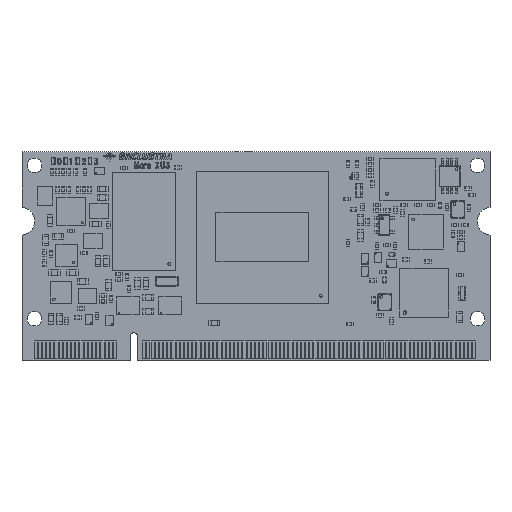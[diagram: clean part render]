
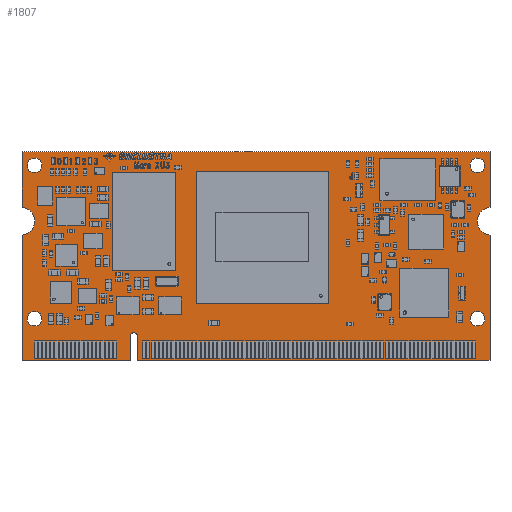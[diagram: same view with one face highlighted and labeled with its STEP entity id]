
A CAD part, top view. The second image highlights one B-rep face of the part: STEP entity #1807.
In plain terms, the highlighted planar face has unit normal (0, 0, 1).
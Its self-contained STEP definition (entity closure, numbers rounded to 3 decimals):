
#1272 = VERTEX_POINT('',#1273);
#1273 = CARTESIAN_POINT('',(0.,0.,1.02));
#1279 = EDGE_CURVE('',#1272,#1280,#1282,.T.);
#1280 = VERTEX_POINT('',#1281);
#1281 = CARTESIAN_POINT('',(15.55,0.,1.02));
#1282 = LINE('',#1283,#1284);
#1283 = CARTESIAN_POINT('',(0.,0.,1.02));
#1284 = VECTOR('',#1285,1.);
#1285 = DIRECTION('',(1.,0.,0.));
#1310 = EDGE_CURVE('',#1280,#1311,#1313,.T.);
#1311 = VERTEX_POINT('',#1312);
#1312 = CARTESIAN_POINT('',(15.55,3.5,1.02));
#1313 = LINE('',#1314,#1315);
#1314 = CARTESIAN_POINT('',(15.55,0.,1.02));
#1315 = VECTOR('',#1316,1.);
#1316 = DIRECTION('',(0.,1.,0.));
#1341 = EDGE_CURVE('',#1311,#1342,#1344,.T.);
#1342 = VERTEX_POINT('',#1343);
#1343 = CARTESIAN_POINT('',(16.55,3.5,1.02));
#1344 = CIRCLE('',#1345,0.5);
#1345 = AXIS2_PLACEMENT_3D('',#1346,#1347,#1348);
#1346 = CARTESIAN_POINT('',(16.05,3.5,1.02));
#1347 = DIRECTION('',(0.,0.,-1.));
#1348 = DIRECTION('',(-1.,0.,0.));
#1374 = EDGE_CURVE('',#1342,#1375,#1377,.T.);
#1375 = VERTEX_POINT('',#1376);
#1376 = CARTESIAN_POINT('',(16.55,0.,1.02));
#1377 = LINE('',#1378,#1379);
#1378 = CARTESIAN_POINT('',(16.55,3.5,1.02));
#1379 = VECTOR('',#1380,1.);
#1380 = DIRECTION('',(0.,-1.,0.));
#1405 = EDGE_CURVE('',#1375,#1406,#1408,.T.);
#1406 = VERTEX_POINT('',#1407);
#1407 = CARTESIAN_POINT('',(67.2,0.,1.02));
#1408 = LINE('',#1409,#1410);
#1409 = CARTESIAN_POINT('',(16.55,0.,1.02));
#1410 = VECTOR('',#1411,1.);
#1411 = DIRECTION('',(1.,0.,0.));
#1436 = EDGE_CURVE('',#1406,#1437,#1439,.T.);
#1437 = VERTEX_POINT('',#1438);
#1438 = CARTESIAN_POINT('',(67.2,18.,1.02));
#1439 = LINE('',#1440,#1441);
#1440 = CARTESIAN_POINT('',(67.2,0.,1.02));
#1441 = VECTOR('',#1442,1.);
#1442 = DIRECTION('',(0.,1.,0.));
#1467 = EDGE_CURVE('',#1437,#1468,#1470,.T.);
#1468 = VERTEX_POINT('',#1469);
#1469 = CARTESIAN_POINT('',(67.2,22.,1.02));
#1470 = CIRCLE('',#1471,2.01);
#1471 = AXIS2_PLACEMENT_3D('',#1472,#1473,#1474);
#1472 = CARTESIAN_POINT('',(67.4,20.,1.02));
#1473 = DIRECTION('',(0.,0.,-1.));
#1474 = DIRECTION('',(-0.099,-0.995,0.));
#1500 = EDGE_CURVE('',#1468,#1501,#1503,.T.);
#1501 = VERTEX_POINT('',#1502);
#1502 = CARTESIAN_POINT('',(67.2,30.,1.02));
#1503 = LINE('',#1504,#1505);
#1504 = CARTESIAN_POINT('',(67.2,22.,1.02));
#1505 = VECTOR('',#1506,1.);
#1506 = DIRECTION('',(0.,1.,0.));
#1531 = EDGE_CURVE('',#1501,#1532,#1534,.T.);
#1532 = VERTEX_POINT('',#1533);
#1533 = CARTESIAN_POINT('',(0.,30.,1.02));
#1534 = LINE('',#1535,#1536);
#1535 = CARTESIAN_POINT('',(67.2,30.,1.02));
#1536 = VECTOR('',#1537,1.);
#1537 = DIRECTION('',(-1.,0.,0.));
#1562 = EDGE_CURVE('',#1532,#1563,#1565,.T.);
#1563 = VERTEX_POINT('',#1564);
#1564 = CARTESIAN_POINT('',(0.,22.,1.02));
#1565 = LINE('',#1566,#1567);
#1566 = CARTESIAN_POINT('',(0.,30.,1.02));
#1567 = VECTOR('',#1568,1.);
#1568 = DIRECTION('',(0.,-1.,0.));
#1593 = EDGE_CURVE('',#1563,#1594,#1596,.T.);
#1594 = VERTEX_POINT('',#1595);
#1595 = CARTESIAN_POINT('',(0.,18.,1.02));
#1596 = CIRCLE('',#1597,2.01);
#1597 = AXIS2_PLACEMENT_3D('',#1598,#1599,#1600);
#1598 = CARTESIAN_POINT('',(-0.2,20.,1.02));
#1599 = DIRECTION('',(0.,0.,-1.));
#1600 = DIRECTION('',(0.099,0.995,0.));
#1626 = EDGE_CURVE('',#1594,#1272,#1627,.T.);
#1627 = LINE('',#1628,#1629);
#1628 = CARTESIAN_POINT('',(0.,18.,1.02));
#1629 = VECTOR('',#1630,1.);
#1630 = DIRECTION('',(0.,-1.,0.));
#1650 = VERTEX_POINT('',#1651);
#1651 = CARTESIAN_POINT('',(2.85,6.,1.02));
#1657 = EDGE_CURVE('',#1650,#1650,#1658,.T.);
#1658 = CIRCLE('',#1659,1.05);
#1659 = AXIS2_PLACEMENT_3D('',#1660,#1661,#1662);
#1660 = CARTESIAN_POINT('',(1.8,6.,1.02));
#1661 = DIRECTION('',(0.,0.,1.));
#1662 = DIRECTION('',(1.,0.,0.));
#1683 = VERTEX_POINT('',#1684);
#1684 = CARTESIAN_POINT('',(2.85,28.,1.02));
#1690 = EDGE_CURVE('',#1683,#1683,#1691,.T.);
#1691 = CIRCLE('',#1692,1.05);
#1692 = AXIS2_PLACEMENT_3D('',#1693,#1694,#1695);
#1693 = CARTESIAN_POINT('',(1.8,28.,1.02));
#1694 = DIRECTION('',(0.,0.,1.));
#1695 = DIRECTION('',(1.,0.,0.));
#1716 = VERTEX_POINT('',#1717);
#1717 = CARTESIAN_POINT('',(66.45,6.,1.02));
#1723 = EDGE_CURVE('',#1716,#1716,#1724,.T.);
#1724 = CIRCLE('',#1725,1.05);
#1725 = AXIS2_PLACEMENT_3D('',#1726,#1727,#1728);
#1726 = CARTESIAN_POINT('',(65.4,6.,1.02));
#1727 = DIRECTION('',(0.,0.,1.));
#1728 = DIRECTION('',(1.,0.,0.));
#1749 = VERTEX_POINT('',#1750);
#1750 = CARTESIAN_POINT('',(66.45,28.,1.02));
#1756 = EDGE_CURVE('',#1749,#1749,#1757,.T.);
#1757 = CIRCLE('',#1758,1.05);
#1758 = AXIS2_PLACEMENT_3D('',#1759,#1760,#1761);
#1759 = CARTESIAN_POINT('',(65.4,28.,1.02));
#1760 = DIRECTION('',(0.,0.,1.));
#1761 = DIRECTION('',(1.,0.,0.));
#1807 = ADVANCED_FACE('',(#1808,#1822,#1825,#1828,#1831),#1834,.F.);
#1808 = FACE_BOUND('',#1809,.T.);
#1809 = EDGE_LOOP('',(#1810,#1811,#1812,#1813,#1814,#1815,#1816,#1817,
    #1818,#1819,#1820,#1821));
#1810 = ORIENTED_EDGE('',*,*,#1279,.T.);
#1811 = ORIENTED_EDGE('',*,*,#1310,.T.);
#1812 = ORIENTED_EDGE('',*,*,#1341,.T.);
#1813 = ORIENTED_EDGE('',*,*,#1374,.T.);
#1814 = ORIENTED_EDGE('',*,*,#1405,.T.);
#1815 = ORIENTED_EDGE('',*,*,#1436,.T.);
#1816 = ORIENTED_EDGE('',*,*,#1467,.T.);
#1817 = ORIENTED_EDGE('',*,*,#1500,.T.);
#1818 = ORIENTED_EDGE('',*,*,#1531,.T.);
#1819 = ORIENTED_EDGE('',*,*,#1562,.T.);
#1820 = ORIENTED_EDGE('',*,*,#1593,.T.);
#1821 = ORIENTED_EDGE('',*,*,#1626,.T.);
#1822 = FACE_BOUND('',#1823,.F.);
#1823 = EDGE_LOOP('',(#1824));
#1824 = ORIENTED_EDGE('',*,*,#1657,.T.);
#1825 = FACE_BOUND('',#1826,.F.);
#1826 = EDGE_LOOP('',(#1827));
#1827 = ORIENTED_EDGE('',*,*,#1690,.T.);
#1828 = FACE_BOUND('',#1829,.F.);
#1829 = EDGE_LOOP('',(#1830));
#1830 = ORIENTED_EDGE('',*,*,#1723,.T.);
#1831 = FACE_BOUND('',#1832,.F.);
#1832 = EDGE_LOOP('',(#1833));
#1833 = ORIENTED_EDGE('',*,*,#1756,.T.);
#1834 = PLANE('',#1835);
#1835 = AXIS2_PLACEMENT_3D('',#1836,#1837,#1838);
#1836 = CARTESIAN_POINT('',(0.,0.,1.02));
#1837 = DIRECTION('',(0.,0.,-1.));
#1838 = DIRECTION('',(-1.,0.,0.));
